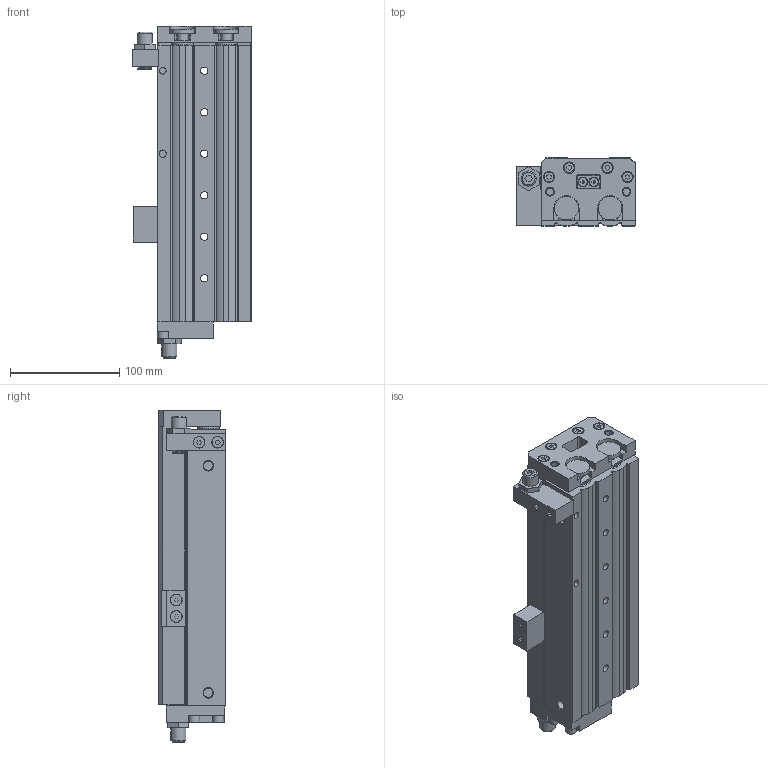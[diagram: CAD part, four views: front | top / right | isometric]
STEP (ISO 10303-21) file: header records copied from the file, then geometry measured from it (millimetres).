
FILE_DESCRIPTION( ( 'STEP AP214' ), '1' );
FILE_NAME( 'C:/Users/EMC02301/Desktop/ELS图纸/ELS25X125-S-A.stp', '2026-08-05T06:24:38', ( 'License CC BY-ND 4.0' ), ( 'CADENAS' ), ' ', 'PARTsolutions', ' ' );
FILE_SCHEMA( ( 'AUTOMOTIVE_DESIGN { 1 0 10303 214 1 1 1 1 }' ) );
Length unit declared in the file: millimetre
Products named in the file (6): ELS25X125-S-A(0)(); _ELS25X125-S-A(HX-07)(HX-07-1)(0-body); _ELS25X125-S-A(0-rod); _FJ-ELS25-A; _FJ-ELS25-A-(AS); _FJ-ELS25-(AF)
Assembly tree (5 placements, depth 2):
  ELS25X125-S-A(0)()
    _ELS25X125-S-A(HX-07)(HX-07-1)(0-body)
    _ELS25X125-S-A(0-rod)
    _FJ-ELS25-A
    _FJ-ELS25-A-(AS)
    _FJ-ELS25-(AF)
Bounding box: 108.5 x 62 x 304 mm (x, y, z)
Volume: 1267602.3 mm3; surface area: 278282.5 mm2
Topology: 5 solids, 5 shells, 651 faces, 1574 edges, 1043 vertices
Faces by surface type: plane 472, cylinder 144, cone 35
Full cylindrical faces by diameter (mm): 4.917 x14, 6 x2, 6.647 x12, 6.8 x6, 8 x8, 8.566 x2, 9 x12, 10 x12, 10.267 x2, 10.5 x7, 10.667 x2, 10.9 x2, 12 x11, 12.4 x1, 14 x2, 20 x2, 22 x2, 23 x2, 25 x4, 26 x2
Entity records: 23323 total; most frequent: CARTESIAN_POINT 3078, DIRECTION 3045, ORIENTED_EDGE 2810, EDGE_CURVE 1405, LINE 1079, VECTOR 1079, VERTEX_POINT 1016, AXIS2_PLACEMENT_3D 983
